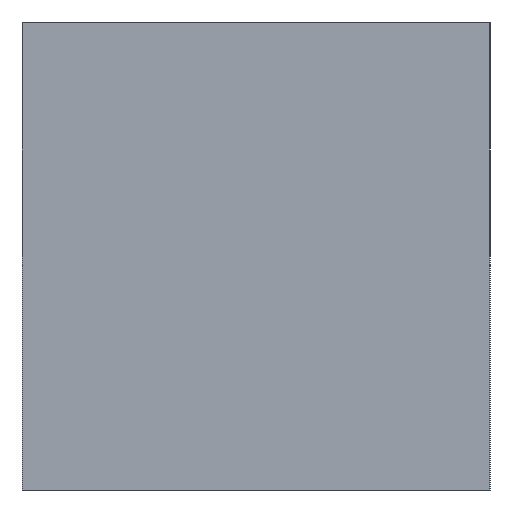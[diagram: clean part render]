
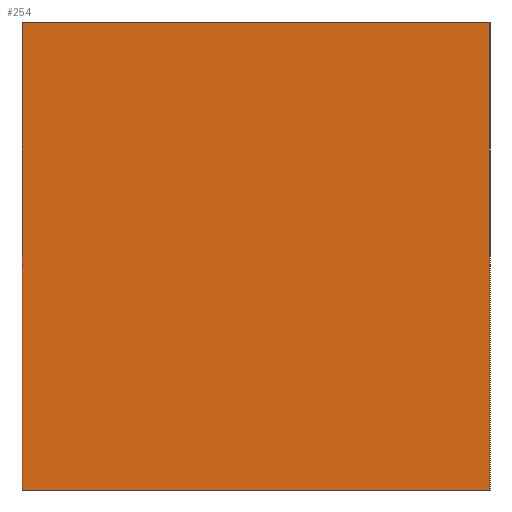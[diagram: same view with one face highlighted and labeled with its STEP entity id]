
A CAD part, left-side view. The second image highlights one B-rep face of the part: STEP entity #254.
In plain terms, the highlighted planar face has unit normal (-1, 0, 0).
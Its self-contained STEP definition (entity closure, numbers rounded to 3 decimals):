
#22 = VERTEX_POINT('',#23);
#23 = CARTESIAN_POINT('',(-5.,-5.,-5.));
#31 = PLANE('',#32);
#32 = AXIS2_PLACEMENT_3D('',#33,#34,#35);
#33 = CARTESIAN_POINT('',(-5.,-5.,-5.));
#34 = DIRECTION('',(0.,-1.,0.));
#35 = DIRECTION('',(0.,-0.,-1.));
#42 = PLANE('',#43);
#43 = AXIS2_PLACEMENT_3D('',#44,#45,#46);
#44 = CARTESIAN_POINT('',(-5.,-5.,-5.));
#45 = DIRECTION('',(0.,0.,-1.));
#46 = DIRECTION('',(-1.,0.,-0.));
#79 = VERTEX_POINT('',#80);
#80 = CARTESIAN_POINT('',(-5.,-5.,5.));
#92 = PLANE('',#93);
#93 = AXIS2_PLACEMENT_3D('',#94,#95,#96);
#94 = CARTESIAN_POINT('',(-5.,-5.,5.));
#95 = DIRECTION('',(0.,0.,1.));
#96 = DIRECTION('',(1.,0.,-0.));
#103 = EDGE_CURVE('',#22,#79,#104,.T.);
#104 = SURFACE_CURVE('',#105,(#108,#114),.PCURVE_S1.);
#105 = B_SPLINE_CURVE_WITH_KNOTS('',1,(#106,#107),.UNSPECIFIED.,.F.,.F.,
  (2,2),(0.,10.),.PIECEWISE_BEZIER_KNOTS.);
#106 = CARTESIAN_POINT('',(-5.,-5.,-5.));
#107 = CARTESIAN_POINT('',(-5.,-5.,5.));
#108 = PCURVE('',#31,#109);
#109 = DEFINITIONAL_REPRESENTATION('',(#110),#113);
#110 = B_SPLINE_CURVE_WITH_KNOTS('',1,(#111,#112),.UNSPECIFIED.,.F.,.F.,
  (2,2),(0.,10.),.PIECEWISE_BEZIER_KNOTS.);
#111 = CARTESIAN_POINT('',(0.,0.));
#112 = CARTESIAN_POINT('',(-10.,0.));
#113 = ( GEOMETRIC_REPRESENTATION_CONTEXT(2) 
PARAMETRIC_REPRESENTATION_CONTEXT() REPRESENTATION_CONTEXT('2D SPACE',''
  ) );
#114 = PCURVE('',#115,#120);
#115 = PLANE('',#116);
#116 = AXIS2_PLACEMENT_3D('',#117,#118,#119);
#117 = CARTESIAN_POINT('',(-5.,5.,-5.));
#118 = DIRECTION('',(-1.,0.,0.));
#119 = DIRECTION('',(0.,0.,-1.));
#120 = DEFINITIONAL_REPRESENTATION('',(#121),#124);
#121 = B_SPLINE_CURVE_WITH_KNOTS('',1,(#122,#123),.UNSPECIFIED.,.F.,.F.,
  (2,2),(0.,10.),.PIECEWISE_BEZIER_KNOTS.);
#122 = CARTESIAN_POINT('',(0.,10.));
#123 = CARTESIAN_POINT('',(-10.,10.));
#124 = ( GEOMETRIC_REPRESENTATION_CONTEXT(2) 
PARAMETRIC_REPRESENTATION_CONTEXT() REPRESENTATION_CONTEXT('2D SPACE',''
  ) );
#163 = PLANE('',#164);
#164 = AXIS2_PLACEMENT_3D('',#165,#166,#167);
#165 = CARTESIAN_POINT('',(6.,5.,-5.));
#166 = DIRECTION('',(0.,1.,0.));
#167 = DIRECTION('',(0.,-0.,1.));
#197 = VERTEX_POINT('',#198);
#198 = CARTESIAN_POINT('',(-5.,5.,-5.));
#216 = EDGE_CURVE('',#197,#217,#219,.T.);
#217 = VERTEX_POINT('',#218);
#218 = CARTESIAN_POINT('',(-5.,5.,5.));
#219 = SURFACE_CURVE('',#220,(#223,#229),.PCURVE_S1.);
#220 = B_SPLINE_CURVE_WITH_KNOTS('',1,(#221,#222),.UNSPECIFIED.,.F.,.F.,
  (2,2),(0.,10.),.PIECEWISE_BEZIER_KNOTS.);
#221 = CARTESIAN_POINT('',(-5.,5.,-5.));
#222 = CARTESIAN_POINT('',(-5.,5.,5.));
#223 = PCURVE('',#163,#224);
#224 = DEFINITIONAL_REPRESENTATION('',(#225),#228);
#225 = B_SPLINE_CURVE_WITH_KNOTS('',1,(#226,#227),.UNSPECIFIED.,.F.,.F.,
  (2,2),(0.,10.),.PIECEWISE_BEZIER_KNOTS.);
#226 = CARTESIAN_POINT('',(0.,-11.));
#227 = CARTESIAN_POINT('',(10.,-11.));
#228 = ( GEOMETRIC_REPRESENTATION_CONTEXT(2) 
PARAMETRIC_REPRESENTATION_CONTEXT() REPRESENTATION_CONTEXT('2D SPACE',''
  ) );
#229 = PCURVE('',#115,#230);
#230 = DEFINITIONAL_REPRESENTATION('',(#231),#234);
#231 = B_SPLINE_CURVE_WITH_KNOTS('',1,(#232,#233),.UNSPECIFIED.,.F.,.F.,
  (2,2),(0.,10.),.PIECEWISE_BEZIER_KNOTS.);
#232 = CARTESIAN_POINT('',(0.,0.));
#233 = CARTESIAN_POINT('',(-10.,0.));
#234 = ( GEOMETRIC_REPRESENTATION_CONTEXT(2) 
PARAMETRIC_REPRESENTATION_CONTEXT() REPRESENTATION_CONTEXT('2D SPACE',''
  ) );
#254 = ADVANCED_FACE('',(#255),#115,.T.);
#255 = FACE_BOUND('',#256,.T.);
#256 = EDGE_LOOP('',(#257,#275,#276,#294));
#257 = ORIENTED_EDGE('',*,*,#258,.T.);
#258 = EDGE_CURVE('',#197,#22,#259,.T.);
#259 = SURFACE_CURVE('',#260,(#263,#269),.PCURVE_S1.);
#260 = B_SPLINE_CURVE_WITH_KNOTS('',1,(#261,#262),.UNSPECIFIED.,.F.,.F.,
  (2,2),(32.,42.),.PIECEWISE_BEZIER_KNOTS.);
#261 = CARTESIAN_POINT('',(-5.,5.,-5.));
#262 = CARTESIAN_POINT('',(-5.,-5.,-5.));
#263 = PCURVE('',#115,#264);
#264 = DEFINITIONAL_REPRESENTATION('',(#265),#268);
#265 = B_SPLINE_CURVE_WITH_KNOTS('',1,(#266,#267),.UNSPECIFIED.,.F.,.F.,
  (2,2),(32.,42.),.PIECEWISE_BEZIER_KNOTS.);
#266 = CARTESIAN_POINT('',(0.,0.));
#267 = CARTESIAN_POINT('',(0.,10.));
#268 = ( GEOMETRIC_REPRESENTATION_CONTEXT(2) 
PARAMETRIC_REPRESENTATION_CONTEXT() REPRESENTATION_CONTEXT('2D SPACE',''
  ) );
#269 = PCURVE('',#42,#270);
#270 = DEFINITIONAL_REPRESENTATION('',(#271),#274);
#271 = B_SPLINE_CURVE_WITH_KNOTS('',1,(#272,#273),.UNSPECIFIED.,.F.,.F.,
  (2,2),(32.,42.),.PIECEWISE_BEZIER_KNOTS.);
#272 = CARTESIAN_POINT('',(0.,10.));
#273 = CARTESIAN_POINT('',(0.,0.));
#274 = ( GEOMETRIC_REPRESENTATION_CONTEXT(2) 
PARAMETRIC_REPRESENTATION_CONTEXT() REPRESENTATION_CONTEXT('2D SPACE',''
  ) );
#275 = ORIENTED_EDGE('',*,*,#103,.T.);
#276 = ORIENTED_EDGE('',*,*,#277,.F.);
#277 = EDGE_CURVE('',#217,#79,#278,.T.);
#278 = SURFACE_CURVE('',#279,(#282,#288),.PCURVE_S1.);
#279 = B_SPLINE_CURVE_WITH_KNOTS('',1,(#280,#281),.UNSPECIFIED.,.F.,.F.,
  (2,2),(32.,42.),.PIECEWISE_BEZIER_KNOTS.);
#280 = CARTESIAN_POINT('',(-5.,5.,5.));
#281 = CARTESIAN_POINT('',(-5.,-5.,5.));
#282 = PCURVE('',#115,#283);
#283 = DEFINITIONAL_REPRESENTATION('',(#284),#287);
#284 = B_SPLINE_CURVE_WITH_KNOTS('',1,(#285,#286),.UNSPECIFIED.,.F.,.F.,
  (2,2),(32.,42.),.PIECEWISE_BEZIER_KNOTS.);
#285 = CARTESIAN_POINT('',(-10.,0.));
#286 = CARTESIAN_POINT('',(-10.,10.));
#287 = ( GEOMETRIC_REPRESENTATION_CONTEXT(2) 
PARAMETRIC_REPRESENTATION_CONTEXT() REPRESENTATION_CONTEXT('2D SPACE',''
  ) );
#288 = PCURVE('',#92,#289);
#289 = DEFINITIONAL_REPRESENTATION('',(#290),#293);
#290 = B_SPLINE_CURVE_WITH_KNOTS('',1,(#291,#292),.UNSPECIFIED.,.F.,.F.,
  (2,2),(32.,42.),.PIECEWISE_BEZIER_KNOTS.);
#291 = CARTESIAN_POINT('',(0.,10.));
#292 = CARTESIAN_POINT('',(0.,0.));
#293 = ( GEOMETRIC_REPRESENTATION_CONTEXT(2) 
PARAMETRIC_REPRESENTATION_CONTEXT() REPRESENTATION_CONTEXT('2D SPACE',''
  ) );
#294 = ORIENTED_EDGE('',*,*,#216,.F.);
